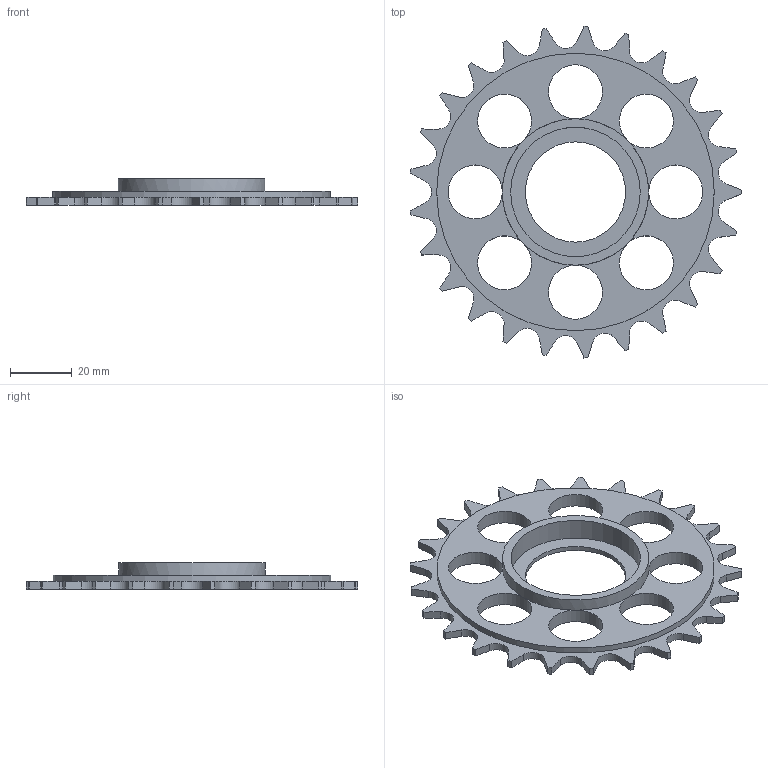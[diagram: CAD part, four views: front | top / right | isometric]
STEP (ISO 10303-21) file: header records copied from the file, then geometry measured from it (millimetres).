
FILE_DESCRIPTION(/* description */ (''),/* implementation_level */ '2;1');
FILE_NAME(/* name */ 'C:/Users/ramar/Desktop/asofij/Sprocket v4.step',/* time_stamp */ '2021-02-07T11:45:41-06:00',/* author */ (''),/* organization */ (''),/* preprocessor_version */ 'ST-DEVELOPER v18.1',/* originating_system */ 'Autodesk Translation Framework v9.7.1.1290',/* authorisation */ '');
FILE_SCHEMA (('AUTOMOTIVE_DESIGN { 1 0 10303 214 3 1 1 }'));
Length unit declared in the file: millimetre
Products named in the file (2): Sprocket; Sprocket_1
Assembly tree (1 placements, depth 2):
  Sprocket
    Sprocket_1
Bounding box: 107.43 x 107.64 x 8.54 mm (x, y, z)
Volume: 19499.2 mm3; surface area: 15325.3 mm2
Topology: 1 solids, 1 shells, 117 faces, 343 edges, 223 vertices
Faces by surface type: cylinder 87, plane 30
Full cylindrical faces by diameter (mm): 17.5 x8, 32.5 x1, 42 x1, 47.5 x1, 90 x1
Entity records: 4051 total; most frequent: DIRECTION 764, ORIENTED_EDGE 686, CARTESIAN_POINT 686, EDGE_CURVE 343, AXIS2_PLACEMENT_3D 301, VERTEX_POINT 223, CIRCLE 181, LINE 162
